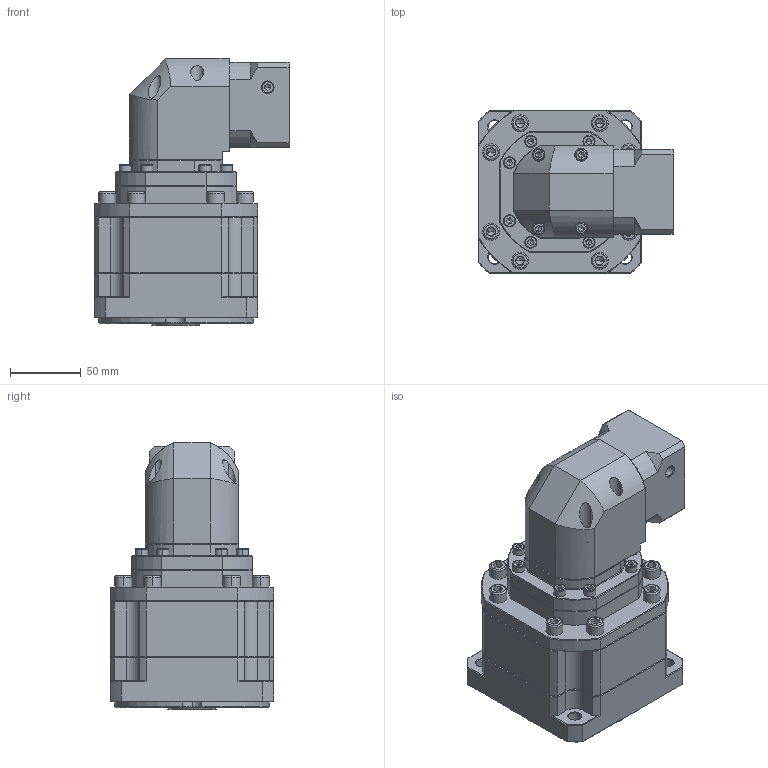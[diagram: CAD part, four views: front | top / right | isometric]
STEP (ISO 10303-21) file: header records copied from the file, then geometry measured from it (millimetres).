
FILE_DESCRIPTION (( 'STEP AP214' ), '1' );
FILE_NAME ('ZBR115A-K25-L3-P2-8-30-46-M4.step', '2023-08-26T14:09:27', ( '' ), ( '' ), 'SwSTEP 2.0', 'SolidWorks 2016', '' );
FILE_SCHEMA (( 'AUTOMOTIVE_DESIGN' ));
Length unit declared in the file: millimetre
Products named in the file (1): ZBR115A-K25-L3-P2-8-30-46-M4
Bounding box: 137.7 x 115 x 187.5 mm (x, y, z)
Volume: 1514850.5 mm3; surface area: 144494.2 mm2
Topology: 6 solids, 6 shells, 2625 faces, 6939 edges, 4439 vertices
Faces by surface type: plane 1290, bspline 498, cylinder 436, cone 381, torus 20
Entity records: 148918 total; most frequent: CARTESIAN_POINT 58819, ORIENTED_EDGE 13774, DIRECTION 10993, EDGE_CURVE 6887, VERTEX_POINT 4439, LINE 4291, VECTOR 4291, AXIS2_PLACEMENT_3D 3351
